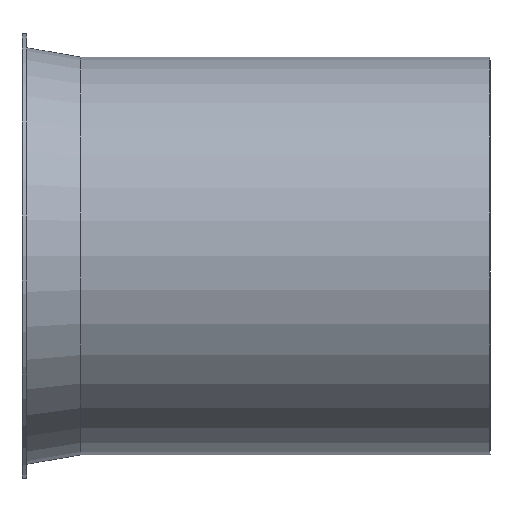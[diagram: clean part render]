
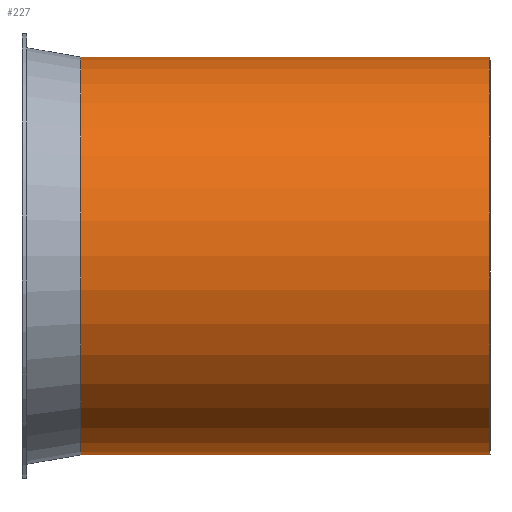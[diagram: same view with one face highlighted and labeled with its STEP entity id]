
A CAD part, top view. The second image highlights one B-rep face of the part: STEP entity #227.
In plain terms, the highlighted cylindrical face has radius 85 mm (diameter 170 mm), a full revolution.
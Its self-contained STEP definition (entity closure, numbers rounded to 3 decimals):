
#132=CARTESIAN_POINT('',(-2.081,46.834,0.0));
#133=VERTEX_POINT('',#132);
#134=CARTESIAN_POINT('',(-2.081,131.834,0.0));
#135=DIRECTION('',(-1.0,0.0,0.0));
#136=DIRECTION('',(0.0,-1.0,0.0));
#137=AXIS2_PLACEMENT_3D('',#134,#135,#136);
#138=CIRCLE('',#137,85.0);
#139=EDGE_CURVE('',#133,#133,#138,.T.);
#201=CARTESIAN_POINT('',(172.919,46.834,0.0));
#202=VERTEX_POINT('',#201);
#203=CARTESIAN_POINT('',(172.919,131.834,0.0));
#204=DIRECTION('',(-1.0,0.0,0.0));
#205=DIRECTION('',(0.0,-1.0,0.0));
#206=AXIS2_PLACEMENT_3D('',#203,#204,#205);
#207=CIRCLE('',#206,85.);
#208=EDGE_CURVE('',#202,#202,#207,.T.);
#216=CARTESIAN_POINT('',(85.419,131.834,0.0));
#217=DIRECTION('',(-1.0,0.,0.0));
#218=DIRECTION('',(0.0,-1.0,0.0));
#219=AXIS2_PLACEMENT_3D('',#216,#217,#218);
#220=CYLINDRICAL_SURFACE('',#219,85.);
#221=ORIENTED_EDGE('',*,*,#139,.F.);
#222=EDGE_LOOP('',(#221));
#223=FACE_OUTER_BOUND('',#222,.T.);
#224=ORIENTED_EDGE('',*,*,#208,.T.);
#225=EDGE_LOOP('',(#224));
#226=FACE_BOUND('',#225,.T.);
#227=ADVANCED_FACE('',(#223,#226),#220,.T.);
